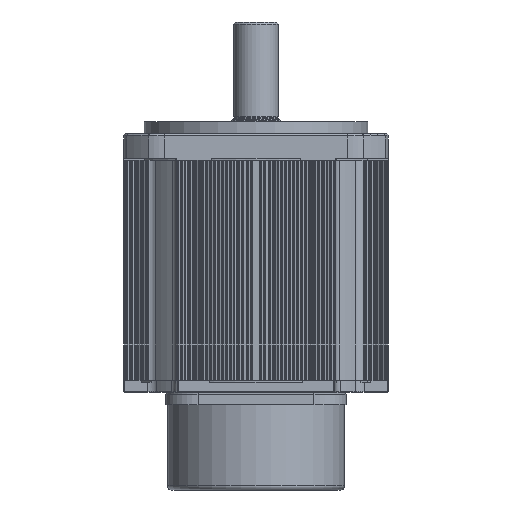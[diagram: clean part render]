
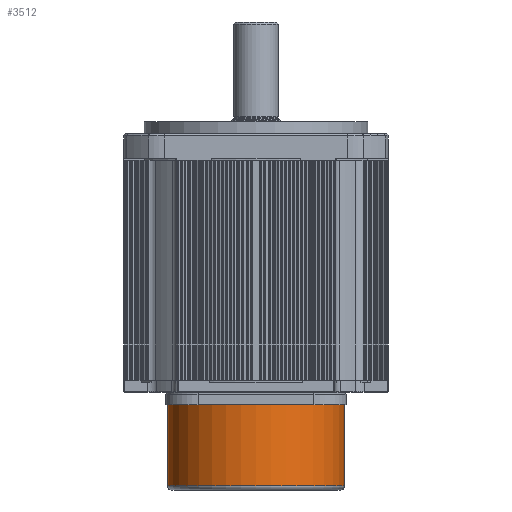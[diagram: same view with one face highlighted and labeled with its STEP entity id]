
A CAD part, front view. The second image highlights one B-rep face of the part: STEP entity #3512.
In plain terms, the highlighted cylindrical face has radius 43.5 mm (diameter 87 mm), a partial arc.
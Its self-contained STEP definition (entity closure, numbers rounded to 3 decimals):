
#1644 = EDGE_CURVE ( 'NONE', #14023, #26771, #69661, .T. ) ;
#1667 = EDGE_CURVE ( 'NONE', #45630, #70915, #28839, .T. ) ;
#3512 = ADVANCED_FACE ( 'NONE', ( #37350 ), #48236, .T. ) ;
#5995 = CARTESIAN_POINT ( 'NONE',  ( -43.5, 0., -5. ) ) ;
#7163 = CARTESIAN_POINT ( 'NONE',  ( -43.5, 0., -47. ) ) ;
#14023 = VERTEX_POINT ( 'NONE', #55604 ) ;
#17024 = DIRECTION ( 'NONE',  ( 0., 0., 1. ) ) ;
#19113 = VECTOR ( 'NONE', #54034, 1000. ) ;
#19506 = EDGE_CURVE ( 'NONE', #26771, #70915, #71455, .T. ) ;
#24440 = CARTESIAN_POINT ( 'NONE',  ( 43.5, 0., -5. ) ) ;
#26210 = EDGE_LOOP ( 'NONE', ( #34878, #62094, #39440, #76361 ) ) ;
#26771 = VERTEX_POINT ( 'NONE', #36095 ) ;
#28839 = CIRCLE ( 'NONE', #68422, 43.5 ) ;
#30385 = CARTESIAN_POINT ( 'NONE',  ( 43.5, 0., -47. ) ) ;
#30802 = CARTESIAN_POINT ( 'NONE',  ( 0., 0., -47. ) ) ;
#30838 = DIRECTION ( 'NONE',  ( 0., 0., 1. ) ) ;
#34878 = ORIENTED_EDGE ( 'NONE', *, *, #42590, .F. ) ;
#36095 = CARTESIAN_POINT ( 'NONE',  ( 43.5, 0., -45. ) ) ;
#37350 = FACE_OUTER_BOUND ( 'NONE', #26210, .T. ) ;
#39440 = ORIENTED_EDGE ( 'NONE', *, *, #19506, .T. ) ;
#41421 = CARTESIAN_POINT ( 'NONE',  ( 0., 0., -45. ) ) ;
#42590 = EDGE_CURVE ( 'NONE', #14023, #45630, #43561, .T. ) ;
#43561 = LINE ( 'NONE', #7163, #48704 ) ;
#45630 = VERTEX_POINT ( 'NONE', #5995 ) ;
#48236 = CYLINDRICAL_SURFACE ( 'NONE', #57343, 43.5 ) ;
#48704 = VECTOR ( 'NONE', #30838, 1000. ) ;
#54034 = DIRECTION ( 'NONE',  ( 0., 0., 1. ) ) ;
#54059 = DIRECTION ( 'NONE',  ( 0., 0., 1. ) ) ;
#54228 = CARTESIAN_POINT ( 'NONE',  ( 0., 0., -5. ) ) ;
#55604 = CARTESIAN_POINT ( 'NONE',  ( -43.5, 0., -45. ) ) ;
#57343 = AXIS2_PLACEMENT_3D ( 'NONE', #30802, #54059, #72230 ) ;
#58890 = DIRECTION ( 'NONE',  ( 1., 0., 0. ) ) ;
#62094 = ORIENTED_EDGE ( 'NONE', *, *, #1644, .T. ) ;
#64313 = DIRECTION ( 'NONE',  ( 0., 0., 1. ) ) ;
#68422 = AXIS2_PLACEMENT_3D ( 'NONE', #54228, #64313, #76720 ) ;
#69661 = CIRCLE ( 'NONE', #75858, 43.5 ) ;
#70915 = VERTEX_POINT ( 'NONE', #24440 ) ;
#71455 = LINE ( 'NONE', #30385, #19113 ) ;
#72230 = DIRECTION ( 'NONE',  ( 1., 0., 0. ) ) ;
#75858 = AXIS2_PLACEMENT_3D ( 'NONE', #41421, #17024, #58890 ) ;
#76361 = ORIENTED_EDGE ( 'NONE', *, *, #1667, .F. ) ;
#76720 = DIRECTION ( 'NONE',  ( 1., 0., 0. ) ) ;
